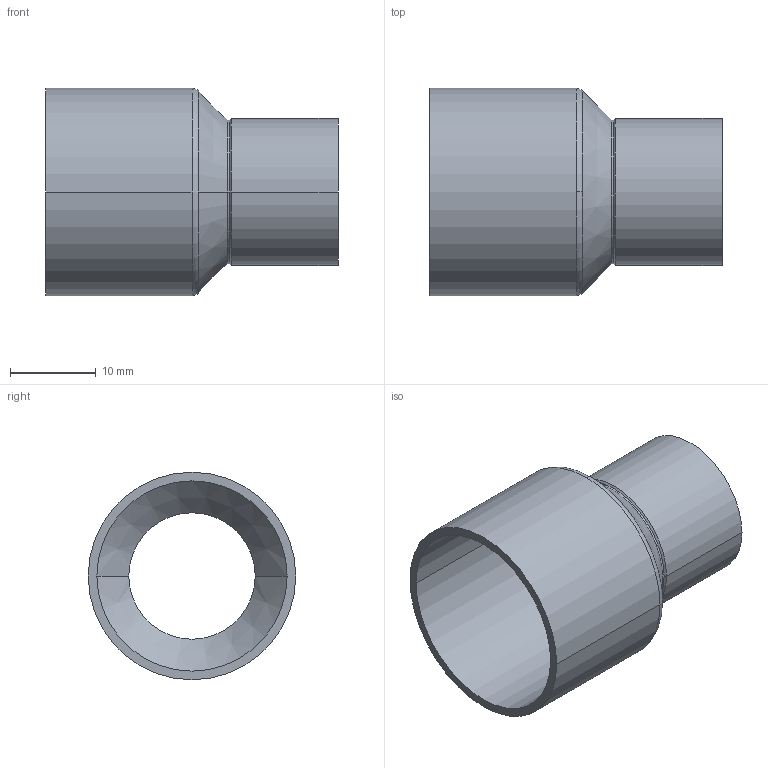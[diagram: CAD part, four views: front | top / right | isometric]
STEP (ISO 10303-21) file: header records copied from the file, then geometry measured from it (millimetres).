
FILE_DESCRIPTION((''),'2;1');
FILE_NAME('G:\Technics\CAD\Bauteile\Serie 15240\152402215.stp','2005-10-21T12:51:07',('boden'),(''),'Autodesk Inventor 8','Autodesk Inventor 8','');
FILE_SCHEMA(('AUTOMOTIVE_DESIGN { 1 0 10303 214 1 1 1 1 }'));
Length unit declared in the file: millimetre
Products named in the file (1): 152402215
Bounding box: 34 x 24.13 x 24.13 mm (x, y, z)
Volume: 2234.1 mm3; surface area: 4591.4 mm2
Topology: 1 solids, 1 shells, 24 faces, 52 edges, 30 vertices
Faces by surface type: cylinder 12, cone 8, torus 2, plane 2
Entity records: 683 total; most frequent: DIRECTION 134, CARTESIAN_POINT 107, ORIENTED_EDGE 104, AXIS2_PLACEMENT_3D 57, EDGE_CURVE 52, CIRCLE 32, VERTEX_POINT 30, EDGE_LOOP 26
